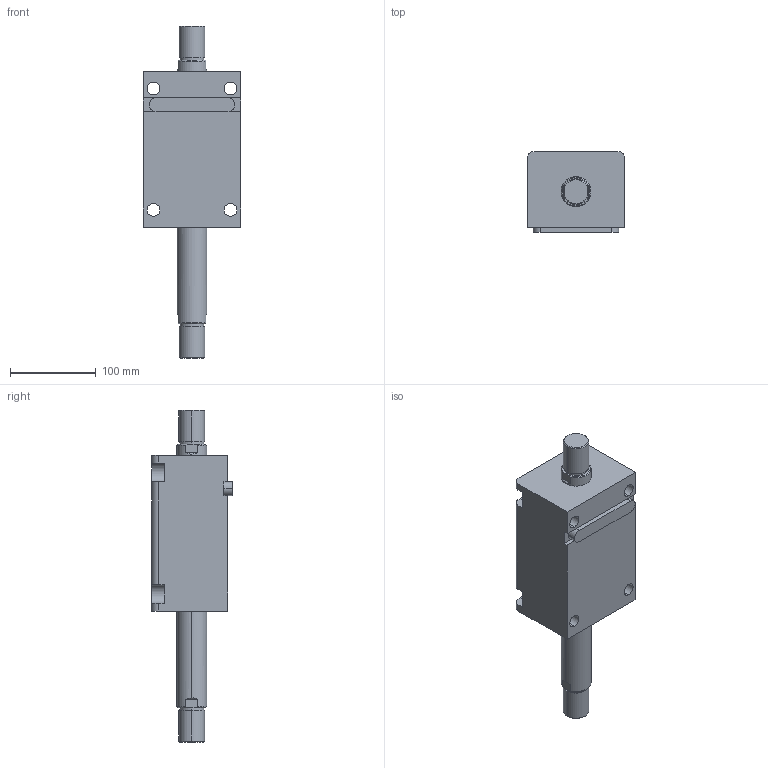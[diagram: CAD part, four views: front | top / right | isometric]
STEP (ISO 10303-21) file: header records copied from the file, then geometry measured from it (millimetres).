
FILE_DESCRIPTION (( 'STEP AP203' ), '1' );
FILE_NAME ('HTB-LW63-100W.STEP', '2019-10-09T08:30:52', ( '微软用户' ), ( '微软中国' ), 'SwSTEP 2.0', 'SolidWorks 2012', '' );
FILE_SCHEMA (( 'CONFIG_CONTROL_DESIGN' ));
Length unit declared in the file: millimetre
Products named in the file (4): HTB-LW63-100W; HTB-LA63-瑩; HTB-LW63-100W活塞杆; HTB-LW63-100掛极
Assembly tree (3 placements, depth 2):
  HTB-LW63-100W
    HTB-LW63-100掛极
    HTB-LW63-100W活塞杆
    HTB-LA63-瑩
Bounding box: 114 x 94.5 x 388 mm (x, y, z)
Volume: 1727720.5 mm3; surface area: 197159 mm2
Topology: 3 solids, 3 shells, 109 faces, 265 edges, 174 vertices
Faces by surface type: plane 48, cylinder 45, cone 12, torus 4
Entity records: 3679 total; most frequent: CARTESIAN_POINT 610, DIRECTION 593, ORIENTED_EDGE 530, EDGE_CURVE 265, AXIS2_PLACEMENT_3D 229, VERTEX_POINT 174, LINE 135, VECTOR 135
